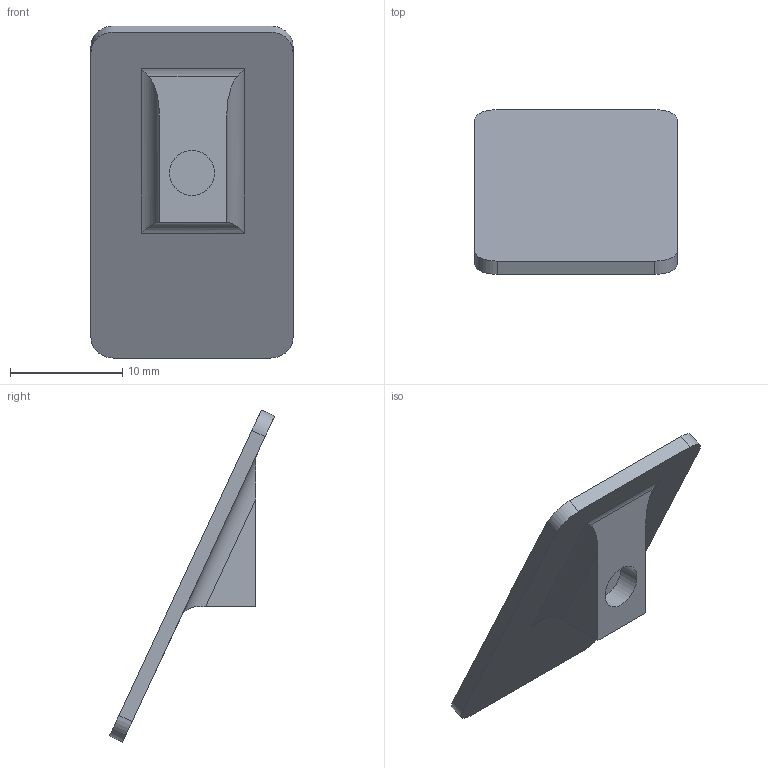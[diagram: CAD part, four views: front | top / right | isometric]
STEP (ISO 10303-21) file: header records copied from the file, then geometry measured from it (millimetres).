
FILE_DESCRIPTION(('HOOPS Exchange Step'),'2;1');
FILE_NAME('/private/var/mobile/Containers/Data/Application/B41F1AF9-3ED7-45D6-8FBD-F140B762F35E/tmp/export/temp_export','2026-08-07T20:44:51+19:00',('mobile'),('Shapr3D Limited'),'HOOPS Exchange 2026.3','Shapr3D','Authorized');
FILE_SCHEMA( ('AP242_MANAGED_MODEL_BASED_3D_ENGINEERING_MIM_LF {1 0 10303 442 1 1 4}') );
Length unit declared in the file: millimetre
Products named in the file (2): Display Backing.step; root
Assembly tree (1 placements, depth 2):
  root
    Display Backing.step
Bounding box: 18 x 14.7 x 29.55 mm (x, y, z)
Volume: 985.8 mm3; surface area: 1389.1 mm2
Topology: 1 solids, 1 shells, 20 faces, 48 edges, 32 vertices
Faces by surface type: plane 11, cylinder 9
Full cylindrical faces by diameter (mm): 4 x1
Entity records: 643 total; most frequent: CARTESIAN_POINT 118, DIRECTION 102, ORIENTED_EDGE 96, EDGE_CURVE 48, AXIS2_PLACEMENT_3D 36, VERTEX_POINT 32, VECTOR 30, LINE 30
